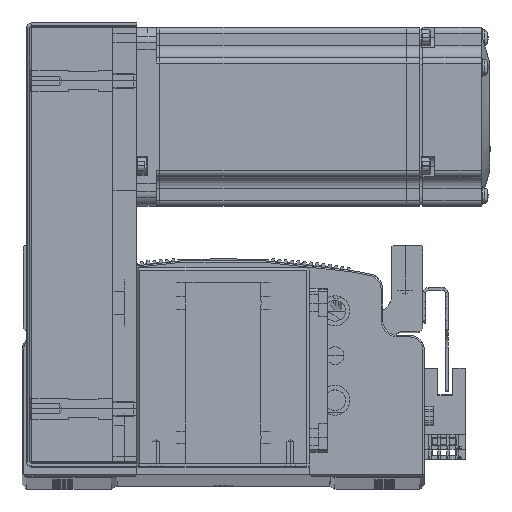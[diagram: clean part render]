
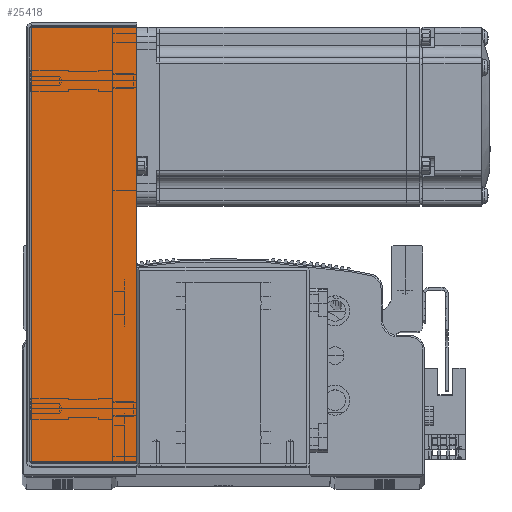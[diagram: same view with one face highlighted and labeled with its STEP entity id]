
A CAD part, top view. The second image highlights one B-rep face of the part: STEP entity #25418.
In plain terms, the highlighted planar face has unit normal (0, 0, 1).
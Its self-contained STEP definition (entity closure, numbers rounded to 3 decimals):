
#15483 = CARTESIAN_POINT ( 'NONE',  ( -72.793, 36., 34.5 ) ) ;
#15519 = CARTESIAN_POINT ( 'NONE',  ( 72.793, 36., 34.5 ) ) ;
#18830 = AXIS2_PLACEMENT_3D ( 'NONE', #76176, #76186, #76187 ) ;
#21434 = CARTESIAN_POINT ( 'NONE',  ( 72.793, 0.737, 34.5 ) ) ;
#21513 = CARTESIAN_POINT ( 'NONE',  ( -72.793, 0.737, 34.5 ) ) ;
#25418 = ADVANCED_FACE ( 'NONE', ( #51912 ), #76177, .F. ) ;
#36517 = ORIENTED_EDGE ( 'NONE', *, *, #86028, .T. ) ;
#36574 = ORIENTED_EDGE ( 'NONE', *, *, #86066, .T. ) ;
#36619 = ORIENTED_EDGE ( 'NONE', *, *, #86043, .F. ) ;
#36669 = ORIENTED_EDGE ( 'NONE', *, *, #86022, .F. ) ;
#39542 = EDGE_LOOP ( 'NONE', ( #36619, #36574, #36517, #36669 ) ) ;
#51912 = FACE_OUTER_BOUND ( 'NONE', #39542, .T. ) ;
#62142 = VERTEX_POINT ( 'NONE', #15483 ) ;
#62203 = VERTEX_POINT ( 'NONE', #15519 ) ;
#72175 = DIRECTION ( 'NONE',  ( -1., 0., 0. ) ) ;
#72198 = CARTESIAN_POINT ( 'NONE',  ( -72.793, 0., 34.5 ) ) ;
#72209 = CARTESIAN_POINT ( 'NONE',  ( 0., 36., 34.5 ) ) ;
#72211 = DIRECTION ( 'NONE',  ( 0., 1., 0. ) ) ;
#72250 = DIRECTION ( 'NONE',  ( -1., 0., 0. ) ) ;
#72267 = CARTESIAN_POINT ( 'NONE',  ( -74.5, 0.737, 34.5 ) ) ;
#72326 = CARTESIAN_POINT ( 'NONE',  ( 72.793, 0., 34.5 ) ) ;
#72344 = DIRECTION ( 'NONE',  ( 0., 1., 0. ) ) ;
#74666 = VECTOR ( 'NONE', #72211, 1000. ) ;
#74677 = LINE ( 'NONE', #72198, #74666 ) ;
#74681 = LINE ( 'NONE', #72267, #74702 ) ;
#74683 = VECTOR ( 'NONE', #72175, 1000. ) ;
#74702 = VECTOR ( 'NONE', #72250, 1000. ) ;
#74703 = LINE ( 'NONE', #72209, #74683 ) ;
#74720 = VECTOR ( 'NONE', #72344, 1000. ) ;
#74751 = LINE ( 'NONE', #72326, #74720 ) ;
#76176 = CARTESIAN_POINT ( 'NONE',  ( 0., 0., 34.5 ) ) ;
#76177 = PLANE ( 'NONE',  #18830 ) ;
#76186 = DIRECTION ( 'NONE',  ( 0., 0., -1. ) ) ;
#76187 = DIRECTION ( 'NONE',  ( -1., 0., 0. ) ) ;
#86022 = EDGE_CURVE ( 'NONE', #89404, #62142, #74677, .T. ) ;
#86028 = EDGE_CURVE ( 'NONE', #62203, #62142, #74703, .T. ) ;
#86043 = EDGE_CURVE ( 'NONE', #89386, #89404, #74681, .T. ) ;
#86066 = EDGE_CURVE ( 'NONE', #89386, #62203, #74751, .T. ) ;
#89386 = VERTEX_POINT ( 'NONE', #21434 ) ;
#89404 = VERTEX_POINT ( 'NONE', #21513 ) ;
